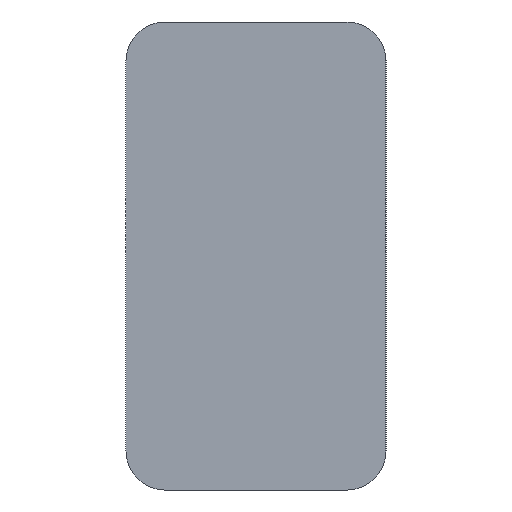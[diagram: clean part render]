
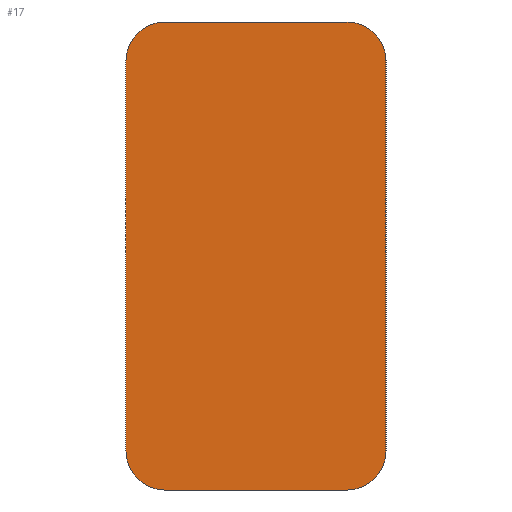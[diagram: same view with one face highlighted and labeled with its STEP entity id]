
A CAD part, left-side view. The second image highlights one B-rep face of the part: STEP entity #17.
In plain terms, the highlighted planar face has unit normal (-1, 0, 0).
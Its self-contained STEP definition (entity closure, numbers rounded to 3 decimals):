
#17 = ADVANCED_FACE('',(#18),#32,.F.);
#18 = FACE_BOUND('',#19,.F.);
#19 = EDGE_LOOP('',(#20,#55,#84,#112,#145,#173,#202,#230));
#20 = ORIENTED_EDGE('',*,*,#21,.F.);
#21 = EDGE_CURVE('',#22,#24,#26,.T.);
#22 = VERTEX_POINT('',#23);
#23 = CARTESIAN_POINT('',(50.,46.5,-7.5));
#24 = VERTEX_POINT('',#25);
#25 = CARTESIAN_POINT('',(50.,46.5,7.5));
#26 = SURFACE_CURVE('',#27,(#31,#43),.PCURVE_S1.);
#27 = LINE('',#28,#29);
#28 = CARTESIAN_POINT('',(50.,46.5,-9.));
#29 = VECTOR('',#30,1.);
#30 = DIRECTION('',(0.,0.,1.));
#31 = PCURVE('',#32,#37);
#32 = PLANE('',#33);
#33 = AXIS2_PLACEMENT_3D('',#34,#35,#36);
#34 = CARTESIAN_POINT('',(50.,46.5,-9.));
#35 = DIRECTION('',(1.,0.,-0.));
#36 = DIRECTION('',(0.,0.,1.));
#37 = DEFINITIONAL_REPRESENTATION('',(#38),#42);
#38 = LINE('',#39,#40);
#39 = CARTESIAN_POINT('',(0.,0.));
#40 = VECTOR('',#41,1.);
#41 = DIRECTION('',(1.,0.));
#42 = ( GEOMETRIC_REPRESENTATION_CONTEXT(2) 
PARAMETRIC_REPRESENTATION_CONTEXT() REPRESENTATION_CONTEXT('2D SPACE',''
  ) );
#43 = PCURVE('',#44,#49);
#44 = PLANE('',#45);
#45 = AXIS2_PLACEMENT_3D('',#46,#47,#48);
#46 = CARTESIAN_POINT('',(50.,46.5,-9.));
#47 = DIRECTION('',(-0.,1.,0.));
#48 = DIRECTION('',(0.,0.,1.));
#49 = DEFINITIONAL_REPRESENTATION('',(#50),#54);
#50 = LINE('',#51,#52);
#51 = CARTESIAN_POINT('',(0.,0.));
#52 = VECTOR('',#53,1.);
#53 = DIRECTION('',(1.,0.));
#54 = ( GEOMETRIC_REPRESENTATION_CONTEXT(2) 
PARAMETRIC_REPRESENTATION_CONTEXT() REPRESENTATION_CONTEXT('2D SPACE',''
  ) );
#55 = ORIENTED_EDGE('',*,*,#56,.T.);
#56 = EDGE_CURVE('',#22,#57,#59,.T.);
#57 = VERTEX_POINT('',#58);
#58 = CARTESIAN_POINT('',(50.,48.,-9.));
#59 = SURFACE_CURVE('',#60,(#65,#72),.PCURVE_S1.);
#60 = CIRCLE('',#61,1.5);
#61 = AXIS2_PLACEMENT_3D('',#62,#63,#64);
#62 = CARTESIAN_POINT('',(50.,48.,-7.5));
#63 = DIRECTION('',(1.,0.,-0.));
#64 = DIRECTION('',(0.,0.,1.));
#65 = PCURVE('',#32,#66);
#66 = DEFINITIONAL_REPRESENTATION('',(#67),#71);
#67 = CIRCLE('',#68,1.5);
#68 = AXIS2_PLACEMENT_2D('',#69,#70);
#69 = CARTESIAN_POINT('',(1.5,-1.5));
#70 = DIRECTION('',(1.,0.));
#71 = ( GEOMETRIC_REPRESENTATION_CONTEXT(2) 
PARAMETRIC_REPRESENTATION_CONTEXT() REPRESENTATION_CONTEXT('2D SPACE',''
  ) );
#72 = PCURVE('',#73,#78);
#73 = CYLINDRICAL_SURFACE('',#74,1.5);
#74 = AXIS2_PLACEMENT_3D('',#75,#76,#77);
#75 = CARTESIAN_POINT('',(50.,48.,-7.5));
#76 = DIRECTION('',(1.,0.,-0.));
#77 = DIRECTION('',(0.,-1.,0.));
#78 = DEFINITIONAL_REPRESENTATION('',(#79),#83);
#79 = LINE('',#80,#81);
#80 = CARTESIAN_POINT('',(-1.571,0.));
#81 = VECTOR('',#82,1.);
#82 = DIRECTION('',(1.,0.));
#83 = ( GEOMETRIC_REPRESENTATION_CONTEXT(2) 
PARAMETRIC_REPRESENTATION_CONTEXT() REPRESENTATION_CONTEXT('2D SPACE',''
  ) );
#84 = ORIENTED_EDGE('',*,*,#85,.T.);
#85 = EDGE_CURVE('',#57,#86,#88,.T.);
#86 = VERTEX_POINT('',#87);
#87 = CARTESIAN_POINT('',(50.,55.,-9.));
#88 = SURFACE_CURVE('',#89,(#93,#100),.PCURVE_S1.);
#89 = LINE('',#90,#91);
#90 = CARTESIAN_POINT('',(50.,46.5,-9.));
#91 = VECTOR('',#92,1.);
#92 = DIRECTION('',(-0.,1.,0.));
#93 = PCURVE('',#32,#94);
#94 = DEFINITIONAL_REPRESENTATION('',(#95),#99);
#95 = LINE('',#96,#97);
#96 = CARTESIAN_POINT('',(0.,0.));
#97 = VECTOR('',#98,1.);
#98 = DIRECTION('',(0.,-1.));
#99 = ( GEOMETRIC_REPRESENTATION_CONTEXT(2) 
PARAMETRIC_REPRESENTATION_CONTEXT() REPRESENTATION_CONTEXT('2D SPACE',''
  ) );
#100 = PCURVE('',#101,#106);
#101 = PLANE('',#102);
#102 = AXIS2_PLACEMENT_3D('',#103,#104,#105);
#103 = CARTESIAN_POINT('',(50.,46.5,-9.));
#104 = DIRECTION('',(0.,0.,1.));
#105 = DIRECTION('',(1.,0.,-0.));
#106 = DEFINITIONAL_REPRESENTATION('',(#107),#111);
#107 = LINE('',#108,#109);
#108 = CARTESIAN_POINT('',(0.,0.));
#109 = VECTOR('',#110,1.);
#110 = DIRECTION('',(0.,1.));
#111 = ( GEOMETRIC_REPRESENTATION_CONTEXT(2) 
PARAMETRIC_REPRESENTATION_CONTEXT() REPRESENTATION_CONTEXT('2D SPACE',''
  ) );
#112 = ORIENTED_EDGE('',*,*,#113,.F.);
#113 = EDGE_CURVE('',#114,#86,#116,.T.);
#114 = VERTEX_POINT('',#115);
#115 = CARTESIAN_POINT('',(50.,56.5,-7.5));
#116 = SURFACE_CURVE('',#117,(#122,#133),.PCURVE_S1.);
#117 = CIRCLE('',#118,1.5);
#118 = AXIS2_PLACEMENT_3D('',#119,#120,#121);
#119 = CARTESIAN_POINT('',(50.,55.,-7.5));
#120 = DIRECTION('',(-1.,-0.,0.));
#121 = DIRECTION('',(0.,0.,1.));
#122 = PCURVE('',#32,#123);
#123 = DEFINITIONAL_REPRESENTATION('',(#124),#132);
#124 = ( BOUNDED_CURVE() B_SPLINE_CURVE(2,(#125,#126,#127,#128,#129,#130
,#131),.UNSPECIFIED.,.T.,.F.) B_SPLINE_CURVE_WITH_KNOTS((1,2,2,2,2,1),(
    -2.094,0.,2.094,4.189,6.283,
8.378),.UNSPECIFIED.) CURVE() GEOMETRIC_REPRESENTATION_ITEM() 
RATIONAL_B_SPLINE_CURVE((1.,0.5,1.,0.5,1.,0.5,1.)) REPRESENTATION_ITEM(
  '') );
#125 = CARTESIAN_POINT('',(3.,-8.5));
#126 = CARTESIAN_POINT('',(3.,-11.098));
#127 = CARTESIAN_POINT('',(0.75,-9.799));
#128 = CARTESIAN_POINT('',(-1.5,-8.5));
#129 = CARTESIAN_POINT('',(0.75,-7.201));
#130 = CARTESIAN_POINT('',(3.,-5.902));
#131 = CARTESIAN_POINT('',(3.,-8.5));
#132 = ( GEOMETRIC_REPRESENTATION_CONTEXT(2) 
PARAMETRIC_REPRESENTATION_CONTEXT() REPRESENTATION_CONTEXT('2D SPACE',''
  ) );
#133 = PCURVE('',#134,#139);
#134 = CYLINDRICAL_SURFACE('',#135,1.5);
#135 = AXIS2_PLACEMENT_3D('',#136,#137,#138);
#136 = CARTESIAN_POINT('',(50.,55.,-7.5));
#137 = DIRECTION('',(1.,0.,-0.));
#138 = DIRECTION('',(0.,1.,0.));
#139 = DEFINITIONAL_REPRESENTATION('',(#140),#144);
#140 = LINE('',#141,#142);
#141 = CARTESIAN_POINT('',(1.571,-0.));
#142 = VECTOR('',#143,1.);
#143 = DIRECTION('',(-1.,0.));
#144 = ( GEOMETRIC_REPRESENTATION_CONTEXT(2) 
PARAMETRIC_REPRESENTATION_CONTEXT() REPRESENTATION_CONTEXT('2D SPACE',''
  ) );
#145 = ORIENTED_EDGE('',*,*,#146,.T.);
#146 = EDGE_CURVE('',#114,#147,#149,.T.);
#147 = VERTEX_POINT('',#148);
#148 = CARTESIAN_POINT('',(50.,56.5,7.5));
#149 = SURFACE_CURVE('',#150,(#154,#161),.PCURVE_S1.);
#150 = LINE('',#151,#152);
#151 = CARTESIAN_POINT('',(50.,56.5,-9.));
#152 = VECTOR('',#153,1.);
#153 = DIRECTION('',(0.,0.,1.));
#154 = PCURVE('',#32,#155);
#155 = DEFINITIONAL_REPRESENTATION('',(#156),#160);
#156 = LINE('',#157,#158);
#157 = CARTESIAN_POINT('',(0.,-10.));
#158 = VECTOR('',#159,1.);
#159 = DIRECTION('',(1.,0.));
#160 = ( GEOMETRIC_REPRESENTATION_CONTEXT(2) 
PARAMETRIC_REPRESENTATION_CONTEXT() REPRESENTATION_CONTEXT('2D SPACE',''
  ) );
#161 = PCURVE('',#162,#167);
#162 = PLANE('',#163);
#163 = AXIS2_PLACEMENT_3D('',#164,#165,#166);
#164 = CARTESIAN_POINT('',(50.,56.5,-9.));
#165 = DIRECTION('',(-0.,1.,0.));
#166 = DIRECTION('',(0.,0.,1.));
#167 = DEFINITIONAL_REPRESENTATION('',(#168),#172);
#168 = LINE('',#169,#170);
#169 = CARTESIAN_POINT('',(0.,0.));
#170 = VECTOR('',#171,1.);
#171 = DIRECTION('',(1.,0.));
#172 = ( GEOMETRIC_REPRESENTATION_CONTEXT(2) 
PARAMETRIC_REPRESENTATION_CONTEXT() REPRESENTATION_CONTEXT('2D SPACE',''
  ) );
#173 = ORIENTED_EDGE('',*,*,#174,.T.);
#174 = EDGE_CURVE('',#147,#175,#177,.T.);
#175 = VERTEX_POINT('',#176);
#176 = CARTESIAN_POINT('',(50.,55.,9.));
#177 = SURFACE_CURVE('',#178,(#183,#190),.PCURVE_S1.);
#178 = CIRCLE('',#179,1.5);
#179 = AXIS2_PLACEMENT_3D('',#180,#181,#182);
#180 = CARTESIAN_POINT('',(50.,55.,7.5));
#181 = DIRECTION('',(1.,0.,-0.));
#182 = DIRECTION('',(0.,0.,1.));
#183 = PCURVE('',#32,#184);
#184 = DEFINITIONAL_REPRESENTATION('',(#185),#189);
#185 = CIRCLE('',#186,1.5);
#186 = AXIS2_PLACEMENT_2D('',#187,#188);
#187 = CARTESIAN_POINT('',(16.5,-8.5));
#188 = DIRECTION('',(1.,0.));
#189 = ( GEOMETRIC_REPRESENTATION_CONTEXT(2) 
PARAMETRIC_REPRESENTATION_CONTEXT() REPRESENTATION_CONTEXT('2D SPACE',''
  ) );
#190 = PCURVE('',#191,#196);
#191 = CYLINDRICAL_SURFACE('',#192,1.5);
#192 = AXIS2_PLACEMENT_3D('',#193,#194,#195);
#193 = CARTESIAN_POINT('',(50.,55.,7.5));
#194 = DIRECTION('',(1.,0.,-0.));
#195 = DIRECTION('',(0.,1.,0.));
#196 = DEFINITIONAL_REPRESENTATION('',(#197),#201);
#197 = LINE('',#198,#199);
#198 = CARTESIAN_POINT('',(-4.712,0.));
#199 = VECTOR('',#200,1.);
#200 = DIRECTION('',(1.,0.));
#201 = ( GEOMETRIC_REPRESENTATION_CONTEXT(2) 
PARAMETRIC_REPRESENTATION_CONTEXT() REPRESENTATION_CONTEXT('2D SPACE',''
  ) );
#202 = ORIENTED_EDGE('',*,*,#203,.F.);
#203 = EDGE_CURVE('',#204,#175,#206,.T.);
#204 = VERTEX_POINT('',#205);
#205 = CARTESIAN_POINT('',(50.,48.,9.));
#206 = SURFACE_CURVE('',#207,(#211,#218),.PCURVE_S1.);
#207 = LINE('',#208,#209);
#208 = CARTESIAN_POINT('',(50.,46.5,9.));
#209 = VECTOR('',#210,1.);
#210 = DIRECTION('',(-0.,1.,0.));
#211 = PCURVE('',#32,#212);
#212 = DEFINITIONAL_REPRESENTATION('',(#213),#217);
#213 = LINE('',#214,#215);
#214 = CARTESIAN_POINT('',(18.,0.));
#215 = VECTOR('',#216,1.);
#216 = DIRECTION('',(0.,-1.));
#217 = ( GEOMETRIC_REPRESENTATION_CONTEXT(2) 
PARAMETRIC_REPRESENTATION_CONTEXT() REPRESENTATION_CONTEXT('2D SPACE',''
  ) );
#218 = PCURVE('',#219,#224);
#219 = PLANE('',#220);
#220 = AXIS2_PLACEMENT_3D('',#221,#222,#223);
#221 = CARTESIAN_POINT('',(50.,46.5,9.));
#222 = DIRECTION('',(0.,0.,1.));
#223 = DIRECTION('',(1.,0.,-0.));
#224 = DEFINITIONAL_REPRESENTATION('',(#225),#229);
#225 = LINE('',#226,#227);
#226 = CARTESIAN_POINT('',(0.,0.));
#227 = VECTOR('',#228,1.);
#228 = DIRECTION('',(0.,1.));
#229 = ( GEOMETRIC_REPRESENTATION_CONTEXT(2) 
PARAMETRIC_REPRESENTATION_CONTEXT() REPRESENTATION_CONTEXT('2D SPACE',''
  ) );
#230 = ORIENTED_EDGE('',*,*,#231,.F.);
#231 = EDGE_CURVE('',#24,#204,#232,.T.);
#232 = SURFACE_CURVE('',#233,(#238,#249),.PCURVE_S1.);
#233 = CIRCLE('',#234,1.5);
#234 = AXIS2_PLACEMENT_3D('',#235,#236,#237);
#235 = CARTESIAN_POINT('',(50.,48.,7.5));
#236 = DIRECTION('',(-1.,-0.,0.));
#237 = DIRECTION('',(0.,0.,1.));
#238 = PCURVE('',#32,#239);
#239 = DEFINITIONAL_REPRESENTATION('',(#240),#248);
#240 = ( BOUNDED_CURVE() B_SPLINE_CURVE(2,(#241,#242,#243,#244,#245,#246
,#247),.UNSPECIFIED.,.T.,.F.) B_SPLINE_CURVE_WITH_KNOTS((1,2,2,2,2,1),(
    -2.094,0.,2.094,4.189,6.283,
8.378),.UNSPECIFIED.) CURVE() GEOMETRIC_REPRESENTATION_ITEM() 
RATIONAL_B_SPLINE_CURVE((1.,0.5,1.,0.5,1.,0.5,1.)) REPRESENTATION_ITEM(
  '') );
#241 = CARTESIAN_POINT('',(18.,-1.5));
#242 = CARTESIAN_POINT('',(18.,-4.098));
#243 = CARTESIAN_POINT('',(15.75,-2.799));
#244 = CARTESIAN_POINT('',(13.5,-1.5));
#245 = CARTESIAN_POINT('',(15.75,-0.201));
#246 = CARTESIAN_POINT('',(18.,1.098));
#247 = CARTESIAN_POINT('',(18.,-1.5));
#248 = ( GEOMETRIC_REPRESENTATION_CONTEXT(2) 
PARAMETRIC_REPRESENTATION_CONTEXT() REPRESENTATION_CONTEXT('2D SPACE',''
  ) );
#249 = PCURVE('',#250,#255);
#250 = CYLINDRICAL_SURFACE('',#251,1.5);
#251 = AXIS2_PLACEMENT_3D('',#252,#253,#254);
#252 = CARTESIAN_POINT('',(50.,48.,7.5));
#253 = DIRECTION('',(1.,0.,-0.));
#254 = DIRECTION('',(0.,-1.,0.));
#255 = DEFINITIONAL_REPRESENTATION('',(#256),#260);
#256 = LINE('',#257,#258);
#257 = CARTESIAN_POINT('',(4.712,-0.));
#258 = VECTOR('',#259,1.);
#259 = DIRECTION('',(-1.,0.));
#260 = ( GEOMETRIC_REPRESENTATION_CONTEXT(2) 
PARAMETRIC_REPRESENTATION_CONTEXT() REPRESENTATION_CONTEXT('2D SPACE',''
  ) );
